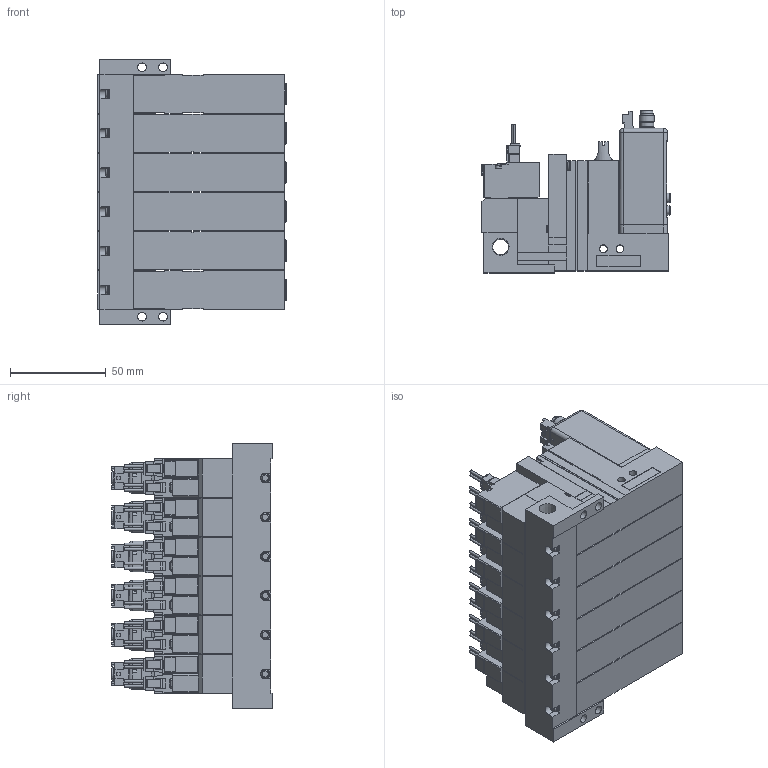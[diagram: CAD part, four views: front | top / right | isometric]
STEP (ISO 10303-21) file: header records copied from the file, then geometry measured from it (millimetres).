
FILE_DESCRIPTION(('STEP AP203'),'1');
FILE_NAME('22_22PLC5ALR606.stp','2025-06-12T04:56:59',(' '),(' '),'Spatial InterOp 3D',' ',' ');
FILE_SCHEMA(('CONFIG_CONTROL_DESIGN'));
Length unit declared in the file: millimetre
Products named in the file (10): BMC22M※※※※22_22PLC5ALR606; Solenoid valve A; Unit LC; Base MR60R; MVS-202
Assembly tree (19 placements, depth 2):
  BMC22M※※※※22_22PLC5ALR606
    Solenoid valve A  x6
    Unit LC  x6
    Base MR60R
    MVS-202
    MVS-202
    MVS-202
    MVS-202
    MVS-202
    MVS-202
Bounding box: 98.5 x 84.6 x 138.5 mm (x, y, z)
Volume: 657704.7 mm3; surface area: 187131 mm2
Topology: 19 solids, 43 shells, 4845 faces, 12635 edges, 8236 vertices
Faces by surface type: plane 4082, cylinder 593, cone 98, torus 48, sphere 24
Full cylindrical faces by diameter (mm): 1 x24, 1.4 x24, 1.5 x6, 2.5 x6, 3 x24, 3.5 x24, 3.6 x6, 4 x12, 4.134 x6, 4.5 x28, 4.8 x18, 5 x12, 5.2 x6, 5.8 x12, 6 x12, 6.5 x18, 6.6 x6, 7 x6, 7.2 x6, 7.9 x6, 8 x12, 8.279 x1
Entity records: 89387 total; most frequent: CARTESIAN_POINT 16122, ORIENTED_EDGE 14630, DIRECTION 14427, EDGE_CURVE 7315, LINE 6175, VECTOR 6175, VERTEX_POINT 4945, AXIS2_PLACEMENT_3D 4126
